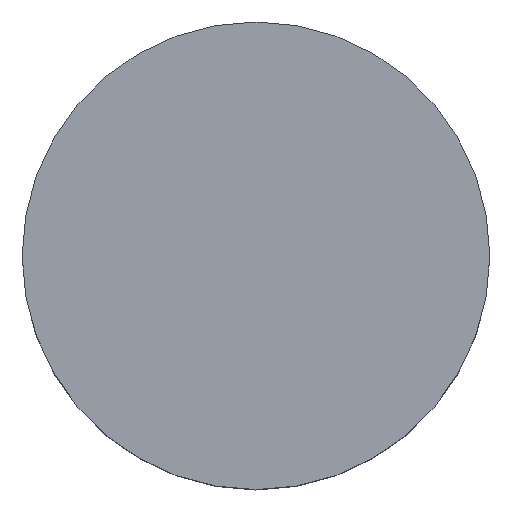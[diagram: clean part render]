
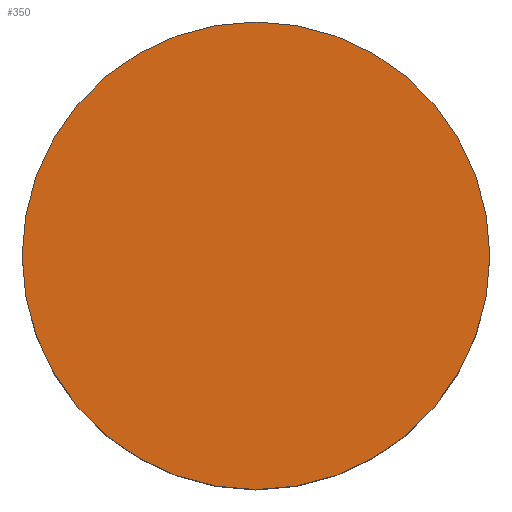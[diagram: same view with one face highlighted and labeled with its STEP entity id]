
A CAD part, top view. The second image highlights one B-rep face of the part: STEP entity #350.
In plain terms, the highlighted planar face has unit normal (0, 0, 1).
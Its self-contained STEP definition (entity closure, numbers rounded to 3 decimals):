
#350=ADVANCED_FACE('',(#435),#399,.T.);
#399=PLANE('',#1131);
#435=FACE_OUTER_BOUND('',#568,.T.);
#568=EDGE_LOOP('',(#724));
#724=ORIENTED_EDGE('',*,*,#912,.F.);
#829=VERTEX_POINT('',#1683);
#912=EDGE_CURVE('',#829,#829,#990,.T.);
#990=CIRCLE('',#1129,37.5);
#1129=AXIS2_PLACEMENT_3D('',#1682,#1418,#1419);
#1131=AXIS2_PLACEMENT_3D('',#1685,#1422,#1423);
#1418=DIRECTION('',(0.,0.,-1.));
#1419=DIRECTION('',(-1.,0.,0.));
#1422=DIRECTION('',(0.,0.,1.));
#1423=DIRECTION('',(1.,0.,0.));
#1682=CARTESIAN_POINT('',(0.,0.,90.));
#1683=CARTESIAN_POINT('',(-37.5,0.,90.));
#1685=CARTESIAN_POINT('',(-37.5,0.,90.));
